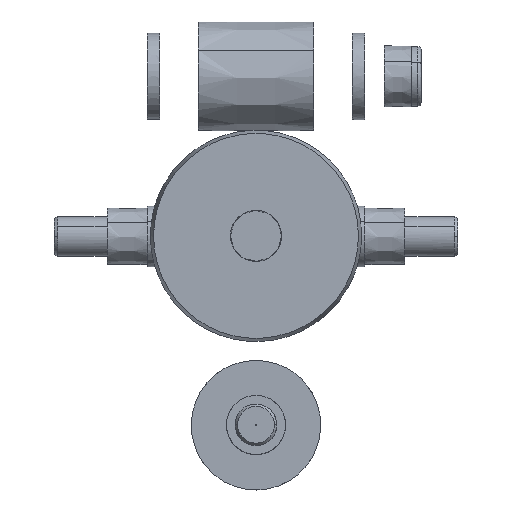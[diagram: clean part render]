
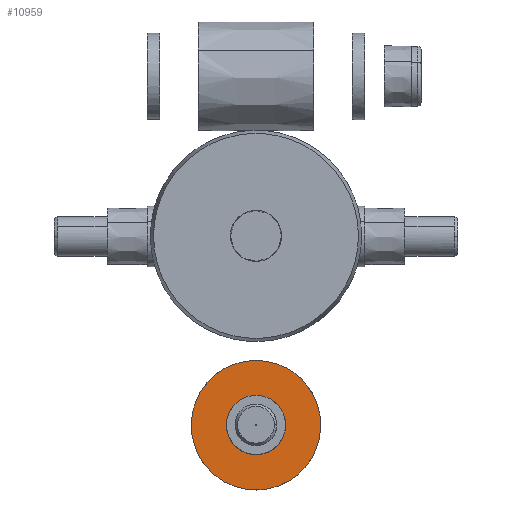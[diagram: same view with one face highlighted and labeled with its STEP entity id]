
A CAD part, top view. The second image highlights one B-rep face of the part: STEP entity #10959.
In plain terms, the highlighted planar face has unit normal (0, 0, 1).
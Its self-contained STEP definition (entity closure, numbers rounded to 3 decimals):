
#221 = EDGE_LOOP ( 'NONE', ( #12747, #12749 ) ) ;
#223 = EDGE_LOOP ( 'NONE', ( #12748, #12750 ) ) ;
#3101 = VERTEX_POINT ( 'NONE', #3356 ) ;
#3102 = VERTEX_POINT ( 'NONE', #3357 ) ;
#3103 = VERTEX_POINT ( 'NONE', #3358 ) ;
#3104 = VERTEX_POINT ( 'NONE', #3359 ) ;
#3356 = CARTESIAN_POINT ( 'NONE',  ( -4.428, -67.105, -103.439 ) ) ;
#3357 = CARTESIAN_POINT ( 'NONE',  ( 4.428, -50.895, -103.439 ) ) ;
#3358 = CARTESIAN_POINT ( 'NONE',  ( -9.701, -76.758, -103.439 ) ) ;
#3359 = CARTESIAN_POINT ( 'NONE',  ( 9.701, -41.242, -103.439 ) ) ;
#5731 = CARTESIAN_POINT ( 'NONE',  ( -20.271, -38.729, -103.439 ) ) ;
#5732 = PLANE ( 'NONE',  #8596 ) ;
#5740 = DIRECTION ( 'NONE',  ( 0., 0., 1. ) ) ;
#5741 = DIRECTION ( 'NONE',  ( 0., -1., 0. ) ) ;
#7044 = B_SPLINE_CURVE_WITH_KNOTS ( 'NONE', 3,
 ( #9551, #9574, #9575, #9576, #9577, #9578, #9579, #9580, #9581, #9582, #9583, #9584, #9585, #9586, #9587, #9588, #9589, #9590, #9591 ),
 .UNSPECIFIED., .F., .F.,
 ( 4, 3, 3, 3, 3, 3, 4 ),
 ( -0.027, -0.022, -0.017, -0.012, -0.007, -0.002, 0.002 ),
 .UNSPECIFIED. ) ;
#7047 = B_SPLINE_CURVE_WITH_KNOTS ( 'NONE', 3,
 ( #9612, #9632, #9633, #9634, #9635, #9636, #9637, #9638, #9639, #9640, #9641, #9642, #9643, #9644, #9645, #9646, #9647, #9648, #9649 ),
 .UNSPECIFIED., .F., .F.,
 ( 4, 3, 3, 3, 3, 3, 4 ),
 ( -0.058, -0.048, -0.037, -0.026, -0.016, -0.005, 0.005 ),
 .UNSPECIFIED. ) ;
#7048 = B_SPLINE_CURVE_WITH_KNOTS ( 'NONE', 3,
 ( #9631, #9655, #9656, #9657, #9658, #9659, #9660, #9661, #9662, #9663, #9664, #9665, #9666, #9667, #9668, #9669, #9670, #9671, #9672 ),
 .UNSPECIFIED., .F., .F.,
 ( 4, 3, 3, 3, 3, 3, 4 ),
 ( -0.027, -0.022, -0.017, -0.012, -0.007, -0.002, 0.002 ),
 .UNSPECIFIED. ) ;
#7049 = B_SPLINE_CURVE_WITH_KNOTS ( 'NONE', 3,
 ( #9654, #9673, #9674, #9675, #9676, #9677, #9678, #9679, #9680, #9681, #9682, #9683, #9684, #9685, #9686, #9687, #9688, #9689, #9690 ),
 .UNSPECIFIED., .F., .F.,
 ( 4, 3, 3, 3, 3, 3, 4 ),
 ( -0.058, -0.048, -0.037, -0.026, -0.016, -0.005, 0.005 ),
 .UNSPECIFIED. ) ;
#7301 = EDGE_CURVE ( 'NONE', #3101, #3102, #7044, .T. ) ;
#7305 = EDGE_CURVE ( 'NONE', #3103, #3104, #7047, .T. ) ;
#7308 = EDGE_CURVE ( 'NONE', #3102, #3101, #7048, .T. ) ;
#7309 = EDGE_CURVE ( 'NONE', #3104, #3103, #7049, .T. ) ;
#7547 = FACE_OUTER_BOUND ( 'NONE', #223, .T. ) ;
#7559 = FACE_BOUND ( 'NONE', #221, .T. ) ;
#8596 = AXIS2_PLACEMENT_3D ( 'NONE', #5731, #5740, #5741 ) ;
#9551 = CARTESIAN_POINT ( 'NONE',  ( -4.428, -67.105, -103.439 ) ) ;
#9574 = CARTESIAN_POINT ( 'NONE',  ( -5.851, -66.328, -103.439 ) ) ;
#9575 = CARTESIAN_POINT ( 'NONE',  ( -7.044, -65.19, -103.439 ) ) ;
#9576 = CARTESIAN_POINT ( 'NONE',  ( -7.887, -63.805, -103.439 ) ) ;
#9577 = CARTESIAN_POINT ( 'NONE',  ( -8.731, -62.421, -103.439 ) ) ;
#9578 = CARTESIAN_POINT ( 'NONE',  ( -9.195, -60.839, -103.439 ) ) ;
#9579 = CARTESIAN_POINT ( 'NONE',  ( -9.233, -59.218, -103.439 ) ) ;
#9580 = CARTESIAN_POINT ( 'NONE',  ( -9.271, -57.597, -103.439 ) ) ;
#9581 = CARTESIAN_POINT ( 'NONE',  ( -8.882, -55.995, -103.439 ) ) ;
#9582 = CARTESIAN_POINT ( 'NONE',  ( -8.105, -54.572, -103.439 ) ) ;
#9583 = CARTESIAN_POINT ( 'NONE',  ( -7.328, -53.149, -103.439 ) ) ;
#9584 = CARTESIAN_POINT ( 'NONE',  ( -6.19, -51.956, -103.439 ) ) ;
#9585 = CARTESIAN_POINT ( 'NONE',  ( -4.805, -51.113, -103.439 ) ) ;
#9586 = CARTESIAN_POINT ( 'NONE',  ( -3.421, -50.269, -103.439 ) ) ;
#9587 = CARTESIAN_POINT ( 'NONE',  ( -1.839, -49.805, -103.439 ) ) ;
#9588 = CARTESIAN_POINT ( 'NONE',  ( -0.218, -49.767, -103.439 ) ) ;
#9589 = CARTESIAN_POINT ( 'NONE',  ( 1.403, -49.729, -103.439 ) ) ;
#9590 = CARTESIAN_POINT ( 'NONE',  ( 3.005, -50.118, -103.439 ) ) ;
#9591 = CARTESIAN_POINT ( 'NONE',  ( 4.428, -50.895, -103.439 ) ) ;
#9612 = CARTESIAN_POINT ( 'NONE',  ( -9.701, -76.758, -103.439 ) ) ;
#9631 = CARTESIAN_POINT ( 'NONE',  ( 4.428, -50.895, -103.439 ) ) ;
#9632 = CARTESIAN_POINT ( 'NONE',  ( -6.584, -78.461, -103.439 ) ) ;
#9633 = CARTESIAN_POINT ( 'NONE',  ( -3.074, -79.314, -103.439 ) ) ;
#9634 = CARTESIAN_POINT ( 'NONE',  ( 0.477, -79.23, -103.439 ) ) ;
#9635 = CARTESIAN_POINT ( 'NONE',  ( 4.029, -79.146, -103.439 ) ) ;
#9636 = CARTESIAN_POINT ( 'NONE',  ( 7.495, -78.129, -103.439 ) ) ;
#9637 = CARTESIAN_POINT ( 'NONE',  ( 10.529, -76.281, -103.439 ) ) ;
#9638 = CARTESIAN_POINT ( 'NONE',  ( 13.562, -74.433, -103.439 ) ) ;
#9639 = CARTESIAN_POINT ( 'NONE',  ( 16.055, -71.819, -103.439 ) ) ;
#9640 = CARTESIAN_POINT ( 'NONE',  ( 17.758, -68.701, -103.439 ) ) ;
#9641 = CARTESIAN_POINT ( 'NONE',  ( 19.461, -65.584, -103.439 ) ) ;
#9642 = CARTESIAN_POINT ( 'NONE',  ( 20.314, -62.074, -103.439 ) ) ;
#9643 = CARTESIAN_POINT ( 'NONE',  ( 20.23, -58.523, -103.439 ) ) ;
#9644 = CARTESIAN_POINT ( 'NONE',  ( 20.146, -54.971, -103.439 ) ) ;
#9645 = CARTESIAN_POINT ( 'NONE',  ( 19.129, -51.505, -103.439 ) ) ;
#9646 = CARTESIAN_POINT ( 'NONE',  ( 17.281, -48.471, -103.439 ) ) ;
#9647 = CARTESIAN_POINT ( 'NONE',  ( 15.433, -45.438, -103.439 ) ) ;
#9648 = CARTESIAN_POINT ( 'NONE',  ( 12.819, -42.945, -103.439 ) ) ;
#9649 = CARTESIAN_POINT ( 'NONE',  ( 9.701, -41.242, -103.439 ) ) ;
#9654 = CARTESIAN_POINT ( 'NONE',  ( 9.701, -41.242, -103.439 ) ) ;
#9655 = CARTESIAN_POINT ( 'NONE',  ( 5.851, -51.672, -103.439 ) ) ;
#9656 = CARTESIAN_POINT ( 'NONE',  ( 7.044, -52.81, -103.439 ) ) ;
#9657 = CARTESIAN_POINT ( 'NONE',  ( 7.887, -54.195, -103.439 ) ) ;
#9658 = CARTESIAN_POINT ( 'NONE',  ( 8.731, -55.579, -103.439 ) ) ;
#9659 = CARTESIAN_POINT ( 'NONE',  ( 9.195, -57.161, -103.439 ) ) ;
#9660 = CARTESIAN_POINT ( 'NONE',  ( 9.233, -58.782, -103.439 ) ) ;
#9661 = CARTESIAN_POINT ( 'NONE',  ( 9.271, -60.403, -103.439 ) ) ;
#9662 = CARTESIAN_POINT ( 'NONE',  ( 8.882, -62.005, -103.439 ) ) ;
#9663 = CARTESIAN_POINT ( 'NONE',  ( 8.105, -63.428, -103.439 ) ) ;
#9664 = CARTESIAN_POINT ( 'NONE',  ( 7.328, -64.851, -103.439 ) ) ;
#9665 = CARTESIAN_POINT ( 'NONE',  ( 6.19, -66.044, -103.439 ) ) ;
#9666 = CARTESIAN_POINT ( 'NONE',  ( 4.805, -66.887, -103.439 ) ) ;
#9667 = CARTESIAN_POINT ( 'NONE',  ( 3.421, -67.731, -103.439 ) ) ;
#9668 = CARTESIAN_POINT ( 'NONE',  ( 1.839, -68.195, -103.439 ) ) ;
#9669 = CARTESIAN_POINT ( 'NONE',  ( 0.218, -68.233, -103.439 ) ) ;
#9670 = CARTESIAN_POINT ( 'NONE',  ( -1.403, -68.271, -103.439 ) ) ;
#9671 = CARTESIAN_POINT ( 'NONE',  ( -3.005, -67.882, -103.439 ) ) ;
#9672 = CARTESIAN_POINT ( 'NONE',  ( -4.428, -67.105, -103.439 ) ) ;
#9673 = CARTESIAN_POINT ( 'NONE',  ( 6.584, -39.539, -103.439 ) ) ;
#9674 = CARTESIAN_POINT ( 'NONE',  ( 3.074, -38.686, -103.439 ) ) ;
#9675 = CARTESIAN_POINT ( 'NONE',  ( -0.477, -38.77, -103.439 ) ) ;
#9676 = CARTESIAN_POINT ( 'NONE',  ( -4.029, -38.854, -103.439 ) ) ;
#9677 = CARTESIAN_POINT ( 'NONE',  ( -7.495, -39.871, -103.439 ) ) ;
#9678 = CARTESIAN_POINT ( 'NONE',  ( -10.529, -41.719, -103.439 ) ) ;
#9679 = CARTESIAN_POINT ( 'NONE',  ( -13.562, -43.567, -103.439 ) ) ;
#9680 = CARTESIAN_POINT ( 'NONE',  ( -16.055, -46.181, -103.439 ) ) ;
#9681 = CARTESIAN_POINT ( 'NONE',  ( -17.758, -49.299, -103.439 ) ) ;
#9682 = CARTESIAN_POINT ( 'NONE',  ( -19.461, -52.416, -103.439 ) ) ;
#9683 = CARTESIAN_POINT ( 'NONE',  ( -20.314, -55.926, -103.439 ) ) ;
#9684 = CARTESIAN_POINT ( 'NONE',  ( -20.23, -59.477, -103.439 ) ) ;
#9685 = CARTESIAN_POINT ( 'NONE',  ( -20.146, -63.029, -103.439 ) ) ;
#9686 = CARTESIAN_POINT ( 'NONE',  ( -19.129, -66.495, -103.439 ) ) ;
#9687 = CARTESIAN_POINT ( 'NONE',  ( -17.281, -69.529, -103.439 ) ) ;
#9688 = CARTESIAN_POINT ( 'NONE',  ( -15.433, -72.562, -103.439 ) ) ;
#9689 = CARTESIAN_POINT ( 'NONE',  ( -12.819, -75.055, -103.439 ) ) ;
#9690 = CARTESIAN_POINT ( 'NONE',  ( -9.701, -76.758, -103.439 ) ) ;
#10959 = ADVANCED_FACE ( 'NONE', ( #7559, #7547 ), #5732, .T. ) ;
#12747 = ORIENTED_EDGE ( 'NONE', *, *, #7301, .T. ) ;
#12748 = ORIENTED_EDGE ( 'NONE', *, *, #7305, .T. ) ;
#12749 = ORIENTED_EDGE ( 'NONE', *, *, #7308, .T. ) ;
#12750 = ORIENTED_EDGE ( 'NONE', *, *, #7309, .T. ) ;
